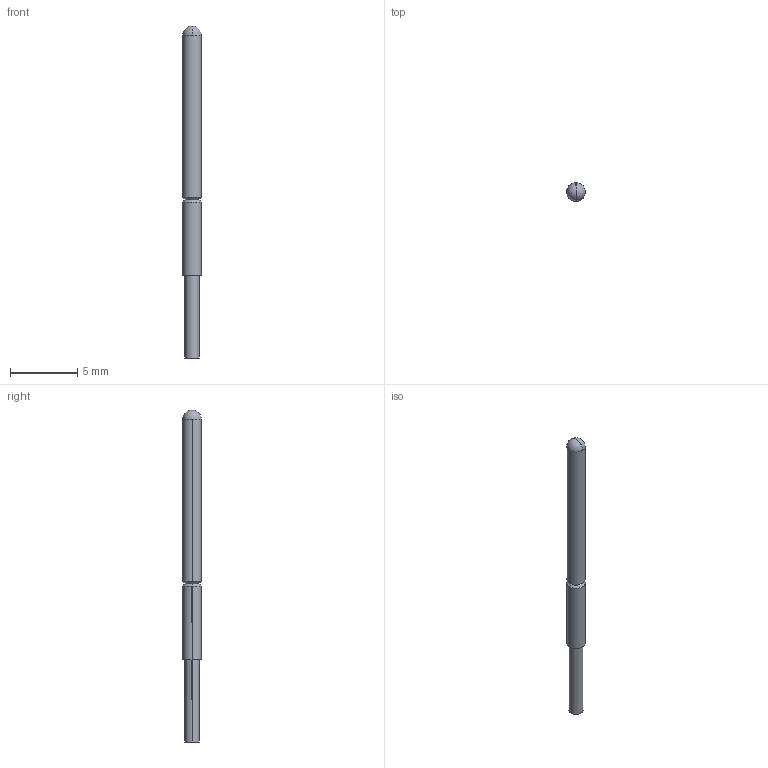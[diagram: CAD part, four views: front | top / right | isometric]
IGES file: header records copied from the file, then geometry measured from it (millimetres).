
Start section: SolidWorks IGES file using analytic representation for surfaces
Global section: file name: \\CODA-VM-SBS\RedirectedFolders\georged\My Documents\CODA CAD FILES\GENERAL PURPOSE TEST PROBES\SHORT REACH TEST PROBES\PA3\PA3C.IGS; native system: SolidWorks 2024; preprocessor: SolidWorks 2024; author: GeorgeD; date: 240710.095415; units: millimetre
Bounding box: 1.37 x 1.37 x 24.64 mm (x, y, z)
Surface area: 101.6 mm2 (no closed solid volume)
Topology: 0 solids, 0 shells, 14 faces, 100 edges, 98 vertices
Faces by surface type: revolution 12, bspline 2
